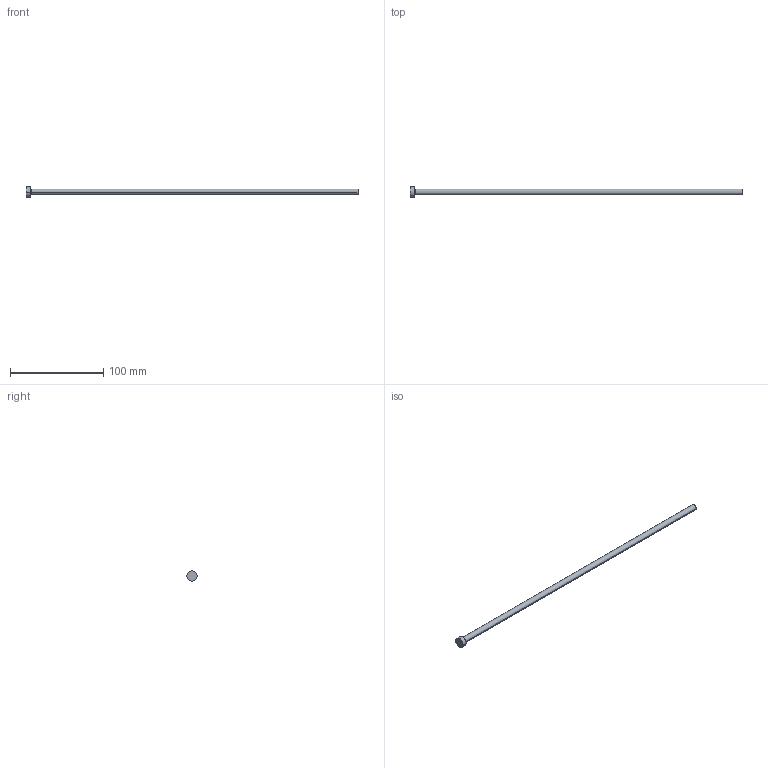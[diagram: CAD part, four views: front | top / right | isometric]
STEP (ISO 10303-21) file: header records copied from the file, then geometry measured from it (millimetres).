
FILE_DESCRIPTION (( 'STEP AP214' ), '1' );
FILE_NAME ('P17-14.STEP', '2020-03-11T18:41:48', ( '' ), ( '' ), 'SwSTEP 2.0', 'SolidWorks 2018', '' );
FILE_SCHEMA (( 'AUTOMOTIVE_DESIGN' ));
Length unit declared in the file: inch
Products named in the file (1): P17-14
Bounding box: 355.6 x 11.11 x 11.11 mm (x, y, z)
Volume: 11548.3 mm3; surface area: 7340.3 mm2
Topology: 1 solids, 1 shells, 13 faces, 24 edges, 14 vertices
Faces by surface type: cone 4, cylinder 4, plane 3, torus 2
Entity records: 366 total; most frequent: DIRECTION 68, CARTESIAN_POINT 52, ORIENTED_EDGE 48, AXIS2_PLACEMENT_3D 30, EDGE_CURVE 24, CIRCLE 16, VERTEX_POINT 14, EDGE_LOOP 14
